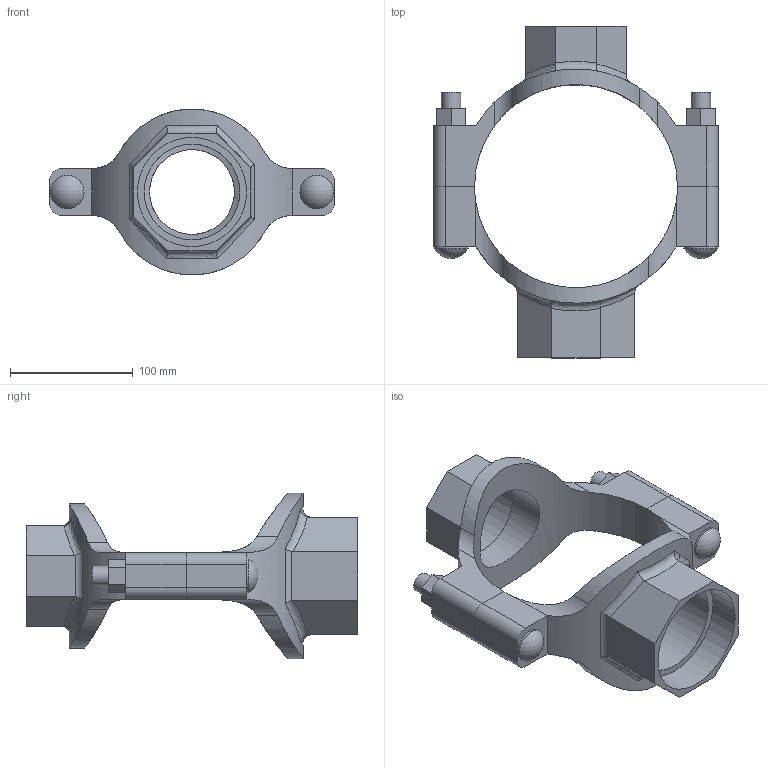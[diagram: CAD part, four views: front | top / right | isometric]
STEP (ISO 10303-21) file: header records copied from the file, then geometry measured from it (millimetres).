
FILE_DESCRIPTION(/* description */ ('VIC MECH-T BRANCH OUTLET CROSS STYLE 920N (THD)','CAx-IF Rec.Pracs.---Representation and Presentation of Product Manufacturing Information (PMI)---4.0---2014-10-13'),/* implementation_level */ '2;1');
FILE_NAME(/* name */ 'C:\Users\Vjadhav\AppData\Roaming\Autodesk\ApplicationPlugins\Back Up\Victaulic_IPS_Mechanical-Cross Outlet_Style 920N (FPT)\Victaulic_IPS_Mechanical-Cross Outlet_06.0 (165.1)x02.5 (76.1)x03.0 (150x65x80).stp',/* time_stamp */ '2020-08-06T19:00:32+06:00',/* author */ ('Vjadhav'),/* organization */ ('Victaulic'),/* preprocessor_version */ 'ST-DEVELOPER v17.2',/* originating_system */ 'Autodesk Inventor 2019',/* authorisation */ '');
FILE_SCHEMA (('AP242_MANAGED_MODEL_BASED_3D_ENGINEERING_MIM_LF { 1 0 10303 442 1 1 4 }'));
Length unit declared in the file: inch
Products named in the file (3): 920NT-06.0 (165.1)x02.5 (76.1)x03.0; 920T-06.0 (165.1)x02.5 (76.1); 920T-06.0 (165.1)x03.0
Assembly tree (2 placements, depth 2):
  920NT-06.0 (165.1)x02.5 (76.1)x03.0
    920T-06.0 (165.1)x02.5 (76.1)
    920T-06.0 (165.1)x03.0
Bounding box: 231.9 x 270 x 134.87 mm (x, y, z)
Volume: 718582.6 mm3; surface area: 174271.2 mm2
Topology: 2 solids, 2 shells, 128 faces, 338 edges, 228 vertices
Faces by surface type: plane 68, cylinder 46, bspline 8, torus 4, sphere 2
Full cylindrical faces by diameter (mm): 15.875 x4, 27.496 x2, 68.986 x1, 76.2 x1, 77.787 x1, 88.9 x1
Entity records: 5108 total; most frequent: CARTESIAN_POINT 1703, ORIENTED_EDGE 676, DIRECTION 628, EDGE_CURVE 338, VERTEX_POINT 228, AXIS2_PLACEMENT_3D 223, LINE 182, VECTOR 182
